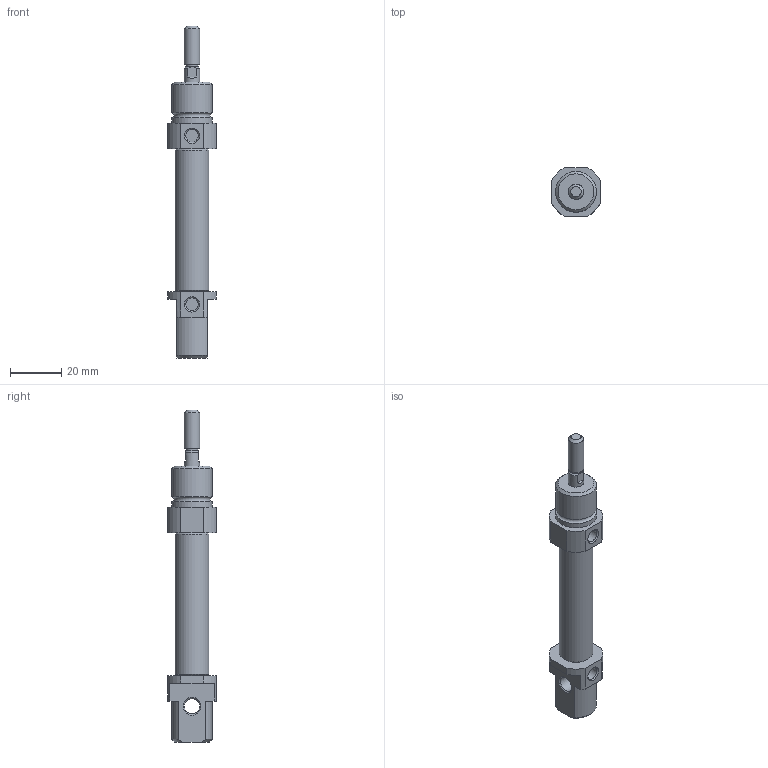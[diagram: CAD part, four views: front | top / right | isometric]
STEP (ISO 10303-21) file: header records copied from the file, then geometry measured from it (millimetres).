
FILE_DESCRIPTION((''),'2;1');
FILE_NAME('I:\3D電子目錄\氣缸\SDA\SDA12\SDA12\SDA12x25.stp','2007-08-06T10:28:29',('Administrator'),(''),'Autodesk Inventor 2008','Autodesk Inventor 2008','');
FILE_SCHEMA(('AUTOMOTIVE_DESIGN { 1 0 10303 214 1 1 1 1 }'));
Length unit declared in the file: millimetre
Products named in the file (1): SDA12X25
Bounding box: 19 x 19 x 130 mm (x, y, z)
Volume: 19202.4 mm3; surface area: 7049.1 mm2
Topology: 1 solids, 1 shells, 60 faces, 138 edges, 88 vertices
Faces by surface type: plane 26, cylinder 19, cone 12, bspline 2, torus 1
Full cylindrical faces by diameter (mm): 4.6 x1, 5 x2, 6 x3, 13.2 x1, 16 x2
Entity records: 1626 total; most frequent: CARTESIAN_POINT 289, DIRECTION 286, ORIENTED_EDGE 238, EDGE_CURVE 119, AXIS2_PLACEMENT_3D 116, EDGE_LOOP 88, VERTEX_POINT 87, FACE_OUTER_BOUND 60
